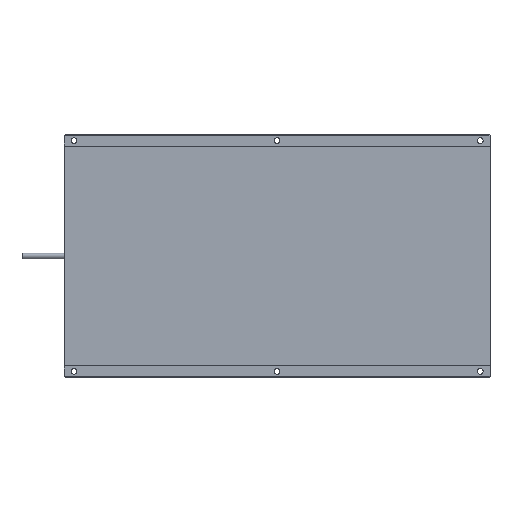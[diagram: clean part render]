
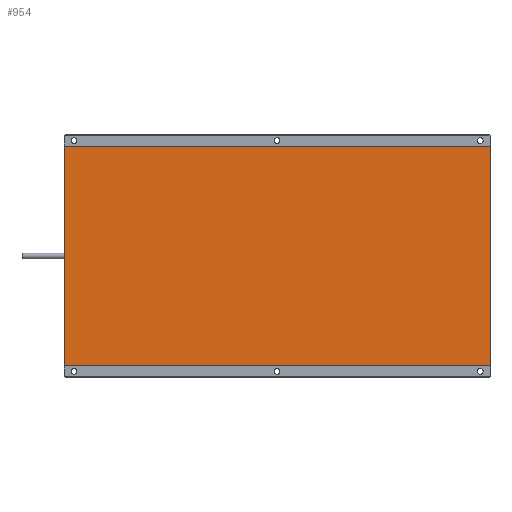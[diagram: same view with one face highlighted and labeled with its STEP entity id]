
A CAD part, top view. The second image highlights one B-rep face of the part: STEP entity #954.
In plain terms, the highlighted planar face has unit normal (0, 0, 1).
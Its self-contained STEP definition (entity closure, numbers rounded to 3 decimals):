
#291=DIRECTION('',(-0.707,-0.707,0.));
#292=VECTOR('',#291,0.707);
#293=CARTESIAN_POINT('',(-130.5,67.5,19.));
#294=LINE('',#293,#292);
#295=DIRECTION('',(-1.,0.,0.));
#296=VECTOR('',#295,261.);
#297=CARTESIAN_POINT('',(130.5,67.5,19.));
#298=LINE('',#297,#296);
#299=DIRECTION('',(-0.707,0.707,0.));
#300=VECTOR('',#299,0.707);
#301=CARTESIAN_POINT('',(131.,67.,19.));
#302=LINE('',#301,#300);
#303=DIRECTION('',(0.,1.,0.));
#304=VECTOR('',#303,134.);
#305=CARTESIAN_POINT('',(131.,-67.,19.));
#306=LINE('',#305,#304);
#307=DIRECTION('',(0.707,0.707,0.));
#308=VECTOR('',#307,0.707);
#309=CARTESIAN_POINT('',(130.5,-67.5,19.));
#310=LINE('',#309,#308);
#311=DIRECTION('',(1.,0.,0.));
#312=VECTOR('',#311,261.);
#313=CARTESIAN_POINT('',(-130.5,-67.5,19.));
#314=LINE('',#313,#312);
#315=DIRECTION('',(0.707,-0.707,0.));
#316=VECTOR('',#315,0.707);
#317=CARTESIAN_POINT('',(-131.,-67.,19.));
#318=LINE('',#317,#316);
#319=DIRECTION('',(0.,-1.,0.));
#320=VECTOR('',#319,134.);
#321=CARTESIAN_POINT('',(-131.,67.,19.));
#322=LINE('',#321,#320);
#453=CARTESIAN_POINT('',(-130.5,67.5,19.));
#455=VERTEX_POINT('',#453);
#457=CARTESIAN_POINT('',(-131.,67.,19.));
#458=VERTEX_POINT('',#457);
#461=CARTESIAN_POINT('',(-131.,-67.,19.));
#463=VERTEX_POINT('',#461);
#465=CARTESIAN_POINT('',(-130.5,-67.5,19.));
#466=VERTEX_POINT('',#465);
#469=CARTESIAN_POINT('',(130.5,-67.5,19.));
#471=VERTEX_POINT('',#469);
#473=CARTESIAN_POINT('',(131.,-67.,19.));
#474=VERTEX_POINT('',#473);
#477=CARTESIAN_POINT('',(131.,67.,19.));
#479=VERTEX_POINT('',#477);
#481=CARTESIAN_POINT('',(130.5,67.5,19.));
#482=VERTEX_POINT('',#481);
#939=CARTESIAN_POINT('',(0.,0.,19.));
#940=DIRECTION('',(0.,0.,1.));
#941=DIRECTION('',(1.,0.,0.));
#942=AXIS2_PLACEMENT_3D('',#939,#940,#941);
#943=PLANE('',#942);
#944=ORIENTED_EDGE('',*,*,#905,.F.);
#945=ORIENTED_EDGE('',*,*,#921,.F.);
#946=ORIENTED_EDGE('',*,*,#932,.F.);
#947=ORIENTED_EDGE('',*,*,#816,.F.);
#948=ORIENTED_EDGE('',*,*,#837,.F.);
#949=ORIENTED_EDGE('',*,*,#851,.F.);
#950=ORIENTED_EDGE('',*,*,#865,.F.);
#951=ORIENTED_EDGE('',*,*,#879,.F.);
#952=EDGE_LOOP('',(#944,#945,#946,#947,#948,#949,#950,#951));
#953=FACE_OUTER_BOUND('',#952,.F.);
#816=EDGE_CURVE('',#474,#479,#306,.T.);
#837=EDGE_CURVE('',#471,#474,#310,.T.);
#851=EDGE_CURVE('',#466,#471,#314,.T.);
#865=EDGE_CURVE('',#463,#466,#318,.T.);
#879=EDGE_CURVE('',#458,#463,#322,.T.);
#905=EDGE_CURVE('',#455,#458,#294,.T.);
#921=EDGE_CURVE('',#482,#455,#298,.T.);
#932=EDGE_CURVE('',#479,#482,#302,.T.);
#954=ADVANCED_FACE('',(#953),#943,.T.);
